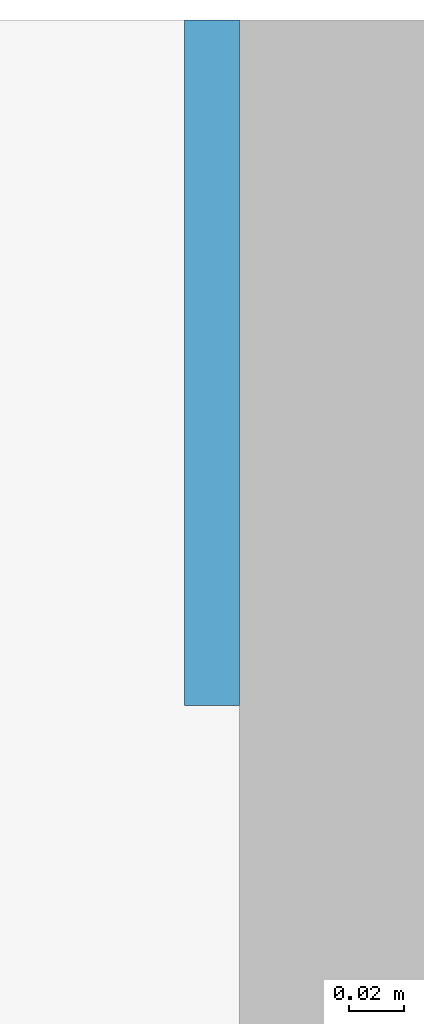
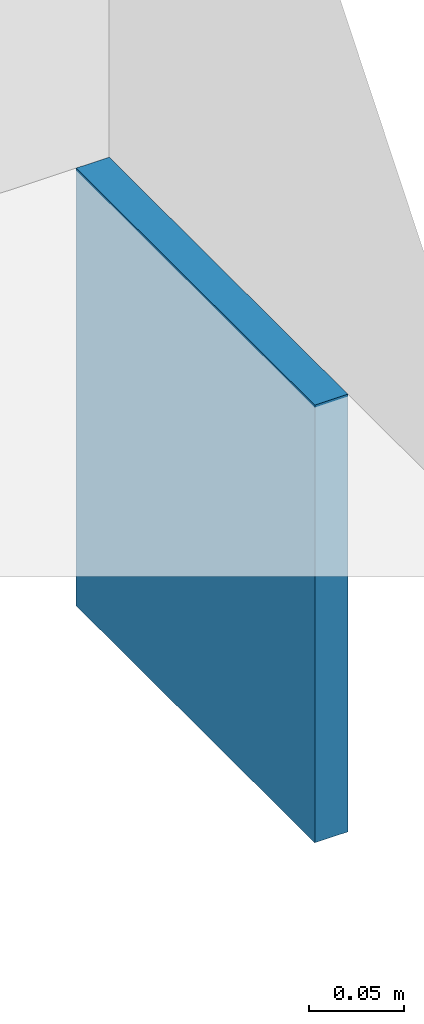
# One storey, part 6 of 8: 1 wall, 1 opening.
"""IFC2X3 building model written with IfcOpenShell, lengths in millimetres."""

import ifcopenshell
import ifcopenshell.guid

model = None  # the IFC model being written
_history = None  # IfcOwnerHistory: only IFC2X3 demands one
_inside = {}  # id of a spatial element -> (the spatial element, [elements in it])
_under = {}  # id of a project, library or spatial element -> (it, [spatial elements below it])
_declared = {}  # id of a project -> (the project, [libraries it declares])
_typed = {}  # id of a type object -> (the type object, [elements of that type])
_made_of = {}  # id of a material, layer set ... -> (it, [elements and type objects made of it])


def new_model(schema):
    """Start an empty IFC model of exactly this schema.

    Asked for "IFC4X3", IfcOpenShell would pick the latest addendum, in which some entities
    have other attributes; the version numbers below select the first issue.
    IFC2X3 requires an IfcOwnerHistory on every rooted entity: one is made here for all.
    """
    global model, _history
    if schema == "IFC4X3":
        model = ifcopenshell.file(schema_version=(4, 3, 0, 0))
    else:
        model = ifcopenshell.file(schema=schema)
    _inside.clear()
    _under.clear()
    _declared.clear()
    _typed.clear()
    _made_of.clear()
    _history = None
    if model.schema == "IFC2X3":
        org = make("IfcOrganization", Name="unknown")
        user = make(
            "IfcPersonAndOrganization",
            ThePerson=make("IfcPerson", FamilyName="unknown"),
            TheOrganization=org,
        )
        app = make(
            "IfcApplication",
            ApplicationDeveloper=org,
            Version="unknown",
            ApplicationFullName="unknown",
            ApplicationIdentifier="unknown",
        )
        _history = make(
            "IfcOwnerHistory",
            OwningUser=user,
            OwningApplication=app,
            ChangeAction="ADDED",
            CreationDate=0,
        )
    return model


def make(cls, **values):
    """One entity of the class cls with the attributes given. An attribute that is None is left unset."""
    return model.create_entity(
        cls, **{name: value for name, value in values.items() if value is not None}
    )


def entity(cls, *values):
    """Any entity or typed value of the class cls, its attributes in the order of the schema. None: left unset."""
    e = model.create_entity(cls)
    for i, value in enumerate(values):
        if value is not None:
            e[i] = value
    return e


def rooted(cls, **values):
    """An entity with a GlobalId (a new one), such as an element, a storey or a relation."""
    return make(cls, GlobalId=ifcopenshell.guid.new(), OwnerHistory=_history, **values)


def si_unit(unit_type, name, prefix=None):
    """IfcSIUnit, for example si_unit("LENGTHUNIT", "METRE", prefix="MILLI")."""
    return make("IfcSIUnit", UnitType=unit_type, Prefix=prefix, Name=name)


def converted_unit(unit_type, name, factor, base, dimensions=None, offset=None):
    """IfcConversionBasedUnit, such as the inch: factor (a typed value) times the base unit."""
    return make(
        "IfcConversionBasedUnit"
        if offset is None
        else "IfcConversionBasedUnitWithOffset",
        ConversionOffset=offset,
        Dimensions=None
        if dimensions is None
        else entity("IfcDimensionalExponents", *dimensions),
        UnitType=unit_type,
        Name=name,
        ConversionFactor=make(
            "IfcMeasureWithUnit", ValueComponent=factor, UnitComponent=base
        ),
    )


def derived_unit(unit_type, elements):
    """IfcDerivedUnit: a product of units, each with its exponent."""
    return make(
        "IfcDerivedUnit",
        Elements=[
            make("IfcDerivedUnitElement", Unit=unit, Exponent=power)
            for unit, power in elements
        ],
        UnitType=unit_type,
    )


def assignment(units):
    """IfcUnitAssignment: the units of a project."""
    return None if units is None else make("IfcUnitAssignment", Units=units)


def point(xyz):
    """IfcCartesianPoint."""
    return None if xyz is None else make("IfcCartesianPoint", Coordinates=xyz)


def direction(xyz):
    """IfcDirection."""
    return None if xyz is None else make("IfcDirection", DirectionRatios=xyz)


def frame(location, z_axis=None, x_axis=None):
    """IfcAxis2Placement3D, a coordinate frame: its origin and axes. An axis left out is left unset."""
    return make(
        "IfcAxis2Placement3D",
        Location=point(location),
        Axis=direction(z_axis),
        RefDirection=direction(x_axis),
    )


def frame_2d(location, x_axis=None):
    """IfcAxis2Placement2D, a coordinate frame in the plane: its origin and x axis."""
    return make(
        "IfcAxis2Placement2D", Location=point(location), RefDirection=direction(x_axis)
    )


def origin():
    """The frame at (0, 0, 0) with its axes left unset."""
    return frame((0.0, 0.0, 0.0))


def place(relative_to, where):
    """IfcLocalPlacement: puts the frame where relative to a parent placement (None: the world)."""
    return make(
        "IfcLocalPlacement", PlacementRelTo=relative_to, RelativePlacement=where
    )


def context(
    kind, dimensions, precision=None, world=None, true_north=None, identifier=None
):
    """IfcGeometricRepresentationContext, for example the 3D "Model" context."""
    return make(
        "IfcGeometricRepresentationContext",
        ContextIdentifier=identifier,
        ContextType=kind,
        CoordinateSpaceDimension=dimensions,
        Precision=precision,
        WorldCoordinateSystem=world,
        TrueNorth=true_north,
    )


def subcontext(parent, identifier, kind, view, scale=None):
    """IfcGeometricRepresentationSubContext, for example "Body" below "Model"."""
    return make(
        "IfcGeometricRepresentationSubContext",
        ContextIdentifier=identifier,
        ContextType=kind,
        ParentContext=parent,
        TargetScale=scale,
        TargetView=view,
    )


def project(units=None, contexts=None):
    """IfcProject with its units and contexts."""
    return rooted(
        "IfcProject",
        Name="project",
        RepresentationContexts=contexts,
        UnitsInContext=assignment(units),
    )


def spatial(cls, under=None, at=None, **own):
    """A site, building, storey or space (cls), placed at a placement, below another one or the project."""
    s = rooted(cls, ObjectPlacement=at, **own)
    if under is not None:
        _under.setdefault(under.id(), (under, []))[1].append(s)
    return s


def profile(cls, at=None, kind="AREA", **sizes):
    """A parametric profile (cls). Its sizes go by their IFC names, for example OverallWidth=200.0."""
    return make(cls, ProfileType=kind, Position=at, **sizes)


def rectangle(**sizes):
    """IfcRectangleProfileDef."""
    return profile("IfcRectangleProfileDef", **sizes)


def extrude(swept, where, along, depth):
    """IfcExtrudedAreaSolid: the profile swept, set in the frame where, extruded along a direction by depth."""
    return make(
        "IfcExtrudedAreaSolid",
        SweptArea=swept,
        Position=where,
        ExtrudedDirection=direction(along),
        Depth=depth,
    )


def shape(context_of_items, identifier, shape_type, items):
    """IfcShapeRepresentation: the items that make up one representation, for example the "Body"."""
    return make(
        "IfcShapeRepresentation",
        ContextOfItems=context_of_items,
        RepresentationIdentifier=identifier,
        RepresentationType=shape_type,
        Items=items,
    )


def material(Name=None, Category=None):
    """IfcMaterial."""
    return make("IfcMaterial", Name=Name, Category=Category)


def layer(
    of_material, thickness, ventilated=None, Name=None, Category=None, Priority=None
):
    """IfcMaterialLayer: one layer of a wall or slab, of a material (None: an air gap)."""
    return make(
        "IfcMaterialLayer",
        Material=of_material,
        LayerThickness=thickness,
        IsVentilated=ventilated,
        Name=Name,
        Category=Category,
        Priority=Priority,
    )


def layer_set(layers, Name=None):
    """IfcMaterialLayerSet."""
    return make("IfcMaterialLayerSet", MaterialLayers=layers, LayerSetName=Name)


def layer_usage(for_layer_set, set_direction, sense, offset, extent=None):
    """IfcMaterialLayerSetUsage: how a layer set lies in its element."""
    return make(
        "IfcMaterialLayerSetUsage",
        ForLayerSet=for_layer_set,
        LayerSetDirection=set_direction,
        DirectionSense=sense,
        OffsetFromReferenceLine=offset,
        ReferenceExtent=extent,
    )


def made_of(thing, what):
    """Note that an element or type object is made of a material, layer set ...; save() writes the relation."""
    if what is not None:
        _made_of.setdefault(what.id(), (what, []))[1].append(thing)
    return thing


def type_object(cls, material=None, **own):
    """A type object (cls), such as IfcWallType, which elements share."""
    return made_of(rooted(cls, **own), material)


def element(
    cls,
    number,
    at=None,
    inside=None,
    cuts=None,
    type_object=None,
    material=None,
    context=None,
    identifier="Body",
    shape_type=None,
    held_by="IfcProductDefinitionShape",
    body=None,
    shapes=None,
    **own,
):
    """One element of the class cls, such as IfcWall. Its Tag is "e" and its number.

    at: its placement. inside: the storey or other place that contains it. cuts: it is an
    opening in that element (IfcRelVoidsElement). A single representation is given by context,
    identifier, shape_type and body (its items); several are given by shapes. held_by: the class
    of the entity that holds the representations. save() writes the other relations.
    """
    e = rooted(cls, Tag="e%d" % number, ObjectPlacement=at, **own)
    if body is not None:
        shapes = [shape(context, identifier, shape_type, body)]
    if shapes is not None:
        e.Representation = make(held_by, Representations=shapes)
    if inside is not None:
        _inside.setdefault(inside.id(), (inside, []))[1].append(e)
    if cuts is not None:
        rooted(
            "IfcRelVoidsElement", RelatingBuildingElement=cuts, RelatedOpeningElement=e
        )
    if type_object is not None:
        _typed.setdefault(type_object.id(), (type_object, []))[1].append(e)
    return made_of(e, material)


def aggregate(whole, parts):
    """IfcRelAggregates: a whole, such as a stair, and the parts it consists of."""
    return rooted("IfcRelAggregates", RelatingObject=whole, RelatedObjects=parts)


def save(model, path):
    """Write the relations noted so far, then the file.

    IfcRelAggregates (storeys below a building ...), IfcRelContainedInSpatialStructure (elements
    in a storey), IfcRelDefinesByType, IfcRelAssociatesMaterial and IfcRelDeclares: one each for
    every whole, place, type object, material and project.
    """
    for whole, parts in _under.values():
        aggregate(whole, parts)
    for where, things in _inside.values():
        rooted(
            "IfcRelContainedInSpatialStructure",
            RelatedElements=things,
            RelatingStructure=where,
        )
    for kind, things in _typed.values():
        rooted("IfcRelDefinesByType", RelatedObjects=things, RelatingType=kind)
    for what, things in _made_of.values():
        rooted("IfcRelAssociatesMaterial", RelatedObjects=things, RelatingMaterial=what)
    for by, libraries in _declared.values():
        rooted("IfcRelDeclares", RelatingContext=by, RelatedDefinitions=libraries)
    model.write(path)


model = new_model("IFC2X3")

# Units and contexts
model_context = context("Model", 3, precision=0.01, world=origin(), true_north=direction((6.12303176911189e-17, 1.0)))
body_context = subcontext(model_context, "Body", "Model", "MODEL_VIEW")
ifc_project = project(units=[si_unit("LENGTHUNIT", "METRE", prefix="MILLI"), si_unit("AREAUNIT", "SQUARE_METRE"), si_unit("VOLUMEUNIT", "CUBIC_METRE"), converted_unit("PLANEANGLEUNIT", "DEGREE", entity("IfcRatioMeasure", 0.0174532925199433), si_unit("PLANEANGLEUNIT", "RADIAN"), dimensions=[0, 0, 0, 0, 0, 0, 0]), si_unit("MASSUNIT", "GRAM", prefix="KILO"), derived_unit("MASSDENSITYUNIT", [(si_unit("MASSUNIT", "GRAM", prefix="KILO"), 1), (si_unit("LENGTHUNIT", "METRE"), -3)]), si_unit("TIMEUNIT", "SECOND"), si_unit("FREQUENCYUNIT", "HERTZ"), si_unit("THERMODYNAMICTEMPERATUREUNIT", "DEGREE_CELSIUS"), derived_unit("THERMALTRANSMITTANCEUNIT", [(si_unit("MASSUNIT", "GRAM", prefix="KILO"), 1), (si_unit("THERMODYNAMICTEMPERATUREUNIT", "KELVIN"), -1), (si_unit("TIMEUNIT", "SECOND"), -3)]), derived_unit("VOLUMETRICFLOWRATEUNIT", [(si_unit("LENGTHUNIT", "METRE"), 3), (si_unit("TIMEUNIT", "SECOND"), -1)]), si_unit("ELECTRICCURRENTUNIT", "AMPERE"), si_unit("ELECTRICVOLTAGEUNIT", "VOLT"), si_unit("POWERUNIT", "WATT"), si_unit("FORCEUNIT", "NEWTON", prefix="KILO"), si_unit("ILLUMINANCEUNIT", "LUX"), si_unit("LUMINOUSFLUXUNIT", "LUMEN"), si_unit("LUMINOUSINTENSITYUNIT", "CANDELA"), derived_unit("USERDEFINED", [(si_unit("MASSUNIT", "GRAM", prefix="KILO"), -1), (si_unit("LENGTHUNIT", "METRE"), -2), (si_unit("TIMEUNIT", "SECOND"), 3), (si_unit("LUMINOUSFLUXUNIT", "LUMEN"), 1)]), derived_unit("LINEARVELOCITYUNIT", [(si_unit("LENGTHUNIT", "METRE"), 1), (si_unit("TIMEUNIT", "SECOND"), -1)]), si_unit("PRESSUREUNIT", "PASCAL"), derived_unit("USERDEFINED", [(si_unit("LENGTHUNIT", "METRE"), -2), (si_unit("MASSUNIT", "GRAM", prefix="KILO"), 1), (si_unit("TIMEUNIT", "SECOND"), -2)])], contexts=[model_context])

# Site, building, storey
site_placement = place(None, origin())
site = spatial("IfcSite", under=ifc_project, at=site_placement, Name="Default", CompositionType="ELEMENT")
building_placement = place(site_placement, origin())
building = spatial("IfcBuilding", under=site, at=building_placement, Name="niet gebruiken", CompositionType="ELEMENT")
storey_placement = place(building_placement, frame((0.0, 0.0, 45270.0)))
storey = spatial("IfcBuildingStorey", under=building, at=storey_placement, Name="15 vijftiende verdieping", CompositionType="ELEMENT", Elevation=45270.0)

# Wall, opening
ifc_material = material(Name="NLRS_f2_beton ihwg")
ifc_layer = layer(ifc_material, 250.0)
ifc_layer_set = layer_set([ifc_layer], Name="Basic Wall:NLRS_21.21_WA_beton ihwg d=250_gen")
ifc_layer_usage = layer_usage(ifc_layer_set, "AXIS2", "NEGATIVE", 125.0)
wall_type = type_object("IfcWallType", Name="Basic Wall:NLRS_21.21_WA_beton ihwg d=250_gen", PredefinedType="STANDARD", material=ifc_layer_set)
wall_placement = place(storey_placement, frame((56370.0, 53131.0, -620.0)))
wall = element("IfcWallStandardCase", 1, at=wall_placement, inside=storey, type_object=wall_type, material=ifc_layer_usage, Name="Basic Wall:NLRS_21.21_WA_beton ihwg d=250_gen", ObjectType="Basic Wall:NLRS_21.21_WA_beton ihwg d=250_gen", context=body_context, shape_type="SweptSolid", body=[
    extrude(rectangle(XDim=19.9999999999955, YDim=249.999999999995, at=frame_2d((9.99999999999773, 0.0), x_axis=(-1.0, 0.0))), origin(), (0.0, 0.0, 1.0), 280.000000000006),
])
opening_placement = place(wall_placement, origin())
element("IfcOpeningElement", 2, at=opening_placement, cuts=wall, Name="Basic Wall:NLRS_21.21_WA_beton ihwg d=250_gen", ObjectType="Opening", context=body_context, shape_type="SweptSolid", body=[
    extrude(rectangle(XDim=2440.0, YDim=2080.0, at=frame_2d((0.0, -4.32009983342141e-12), x_axis=(1.0, 0.0))), frame((-1020.0, -1649.0, -1220.0), z_axis=(0.0, 1.0, 0.0), x_axis=(0.0, 0.0, 1.0)), (0.0, 0.0, 1.0), 3048.0),
])

save(model, "model.ifc")
